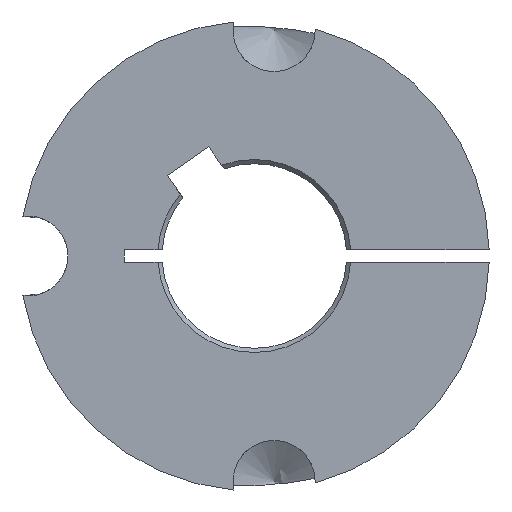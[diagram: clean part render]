
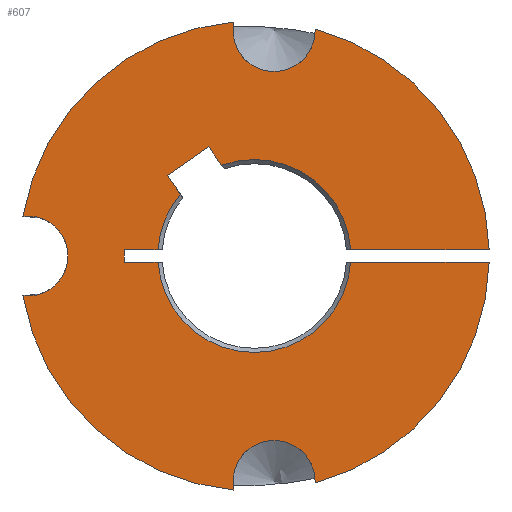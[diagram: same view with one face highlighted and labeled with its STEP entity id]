
A CAD part, left-side view. The second image highlights one B-rep face of the part: STEP entity #607.
In plain terms, the highlighted planar face has unit normal (-1, 0, 0).
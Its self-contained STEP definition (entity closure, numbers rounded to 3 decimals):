
#15=PLANE('',#649);
#41=LINE('',#985,#79);
#42=LINE('',#989,#80);
#43=LINE('',#991,#81);
#44=LINE('',#993,#82);
#45=LINE('',#997,#83);
#46=LINE('',#1001,#84);
#47=LINE('',#1005,#85);
#48=LINE('',#1009,#86);
#79=VECTOR('',#743,16.514);
#80=VECTOR('',#746,4.024);
#81=VECTOR('',#747,1.5);
#82=VECTOR('',#748,4.024);
#83=VECTOR('',#751,2.688);
#84=VECTOR('',#754,5.98);
#85=VECTOR('',#757,2.688);
#86=VECTOR('',#760,16.514);
#131=FACE_OUTER_BOUND('',#165,.T.);
#165=EDGE_LOOP('',(#417,#418,#419,#420,#421,#422,#423,#424,#425,#426,#427,
#428,#429,#430,#431,#432,#433,#434,#435,#436));
#197=CIRCLE('',#644,4.9);
#201=CIRCLE('',#650,4.9);
#202=CIRCLE('',#651,28.);
#203=CIRCLE('',#652,4.763);
#204=CIRCLE('',#653,28.);
#205=CIRCLE('',#654,28.);
#206=CIRCLE('',#655,11.5);
#207=CIRCLE('',#656,11.5);
#208=CIRCLE('',#657,0.01);
#209=CIRCLE('',#658,0.01);
#210=CIRCLE('',#659,11.5);
#211=CIRCLE('',#660,28.);
#244=VERTEX_POINT('',#942);
#245=VERTEX_POINT('',#944);
#251=VERTEX_POINT('',#974);
#252=VERTEX_POINT('',#975);
#253=VERTEX_POINT('',#977);
#254=VERTEX_POINT('',#979);
#255=VERTEX_POINT('',#982);
#256=VERTEX_POINT('',#984);
#257=VERTEX_POINT('',#986);
#258=VERTEX_POINT('',#988);
#259=VERTEX_POINT('',#990);
#260=VERTEX_POINT('',#992);
#261=VERTEX_POINT('',#994);
#262=VERTEX_POINT('',#996);
#263=VERTEX_POINT('',#998);
#264=VERTEX_POINT('',#1000);
#265=VERTEX_POINT('',#1002);
#266=VERTEX_POINT('',#1004);
#267=VERTEX_POINT('',#1006);
#268=VERTEX_POINT('',#1008);
#309=EDGE_CURVE('',#245,#244,#197,.T.);
#317=EDGE_CURVE('',#251,#252,#201,.T.);
#318=EDGE_CURVE('',#252,#253,#202,.T.);
#319=EDGE_CURVE('',#253,#254,#203,.T.);
#320=EDGE_CURVE('',#254,#245,#204,.T.);
#321=EDGE_CURVE('',#244,#255,#205,.T.);
#322=EDGE_CURVE('',#255,#256,#41,.T.);
#323=EDGE_CURVE('',#257,#256,#206,.T.);
#324=EDGE_CURVE('',#257,#258,#42,.T.);
#325=EDGE_CURVE('',#258,#259,#43,.T.);
#326=EDGE_CURVE('',#259,#260,#44,.T.);
#327=EDGE_CURVE('',#261,#260,#207,.T.);
#328=EDGE_CURVE('',#261,#262,#45,.T.);
#329=EDGE_CURVE('',#262,#263,#208,.T.);
#330=EDGE_CURVE('',#263,#264,#46,.T.);
#331=EDGE_CURVE('',#264,#265,#209,.T.);
#332=EDGE_CURVE('',#265,#266,#47,.T.);
#333=EDGE_CURVE('',#267,#266,#210,.T.);
#334=EDGE_CURVE('',#267,#268,#48,.T.);
#335=EDGE_CURVE('',#268,#251,#211,.T.);
#417=ORIENTED_EDGE('',*,*,#317,.T.);
#418=ORIENTED_EDGE('',*,*,#318,.T.);
#419=ORIENTED_EDGE('',*,*,#319,.T.);
#420=ORIENTED_EDGE('',*,*,#320,.T.);
#421=ORIENTED_EDGE('',*,*,#309,.T.);
#422=ORIENTED_EDGE('',*,*,#321,.T.);
#423=ORIENTED_EDGE('',*,*,#322,.T.);
#424=ORIENTED_EDGE('',*,*,#323,.F.);
#425=ORIENTED_EDGE('',*,*,#324,.T.);
#426=ORIENTED_EDGE('',*,*,#325,.T.);
#427=ORIENTED_EDGE('',*,*,#326,.T.);
#428=ORIENTED_EDGE('',*,*,#327,.F.);
#429=ORIENTED_EDGE('',*,*,#328,.T.);
#430=ORIENTED_EDGE('',*,*,#329,.T.);
#431=ORIENTED_EDGE('',*,*,#330,.T.);
#432=ORIENTED_EDGE('',*,*,#331,.T.);
#433=ORIENTED_EDGE('',*,*,#332,.T.);
#434=ORIENTED_EDGE('',*,*,#333,.F.);
#435=ORIENTED_EDGE('',*,*,#334,.T.);
#436=ORIENTED_EDGE('',*,*,#335,.T.);
#607=ADVANCED_FACE('',(#131),#15,.T.);
#644=AXIS2_PLACEMENT_3D('',#945,#720,#721);
#649=AXIS2_PLACEMENT_3D('',#973,#731,#732);
#650=AXIS2_PLACEMENT_3D('',#976,#733,#734);
#651=AXIS2_PLACEMENT_3D('',#978,#735,#736);
#652=AXIS2_PLACEMENT_3D('',#980,#737,#738);
#653=AXIS2_PLACEMENT_3D('',#981,#739,#740);
#654=AXIS2_PLACEMENT_3D('',#983,#741,#742);
#655=AXIS2_PLACEMENT_3D('',#987,#744,#745);
#656=AXIS2_PLACEMENT_3D('',#995,#749,#750);
#657=AXIS2_PLACEMENT_3D('',#999,#752,#753);
#658=AXIS2_PLACEMENT_3D('',#1003,#755,#756);
#659=AXIS2_PLACEMENT_3D('',#1007,#758,#759);
#660=AXIS2_PLACEMENT_3D('',#1010,#761,#762);
#720=DIRECTION('center_axis',(1.,0.,0.));
#721=DIRECTION('ref_axis',(0.,0.,1.));
#731=DIRECTION('center_axis',(-1.,0.,0.));
#732=DIRECTION('ref_axis',(0.,0.,1.));
#733=DIRECTION('center_axis',(1.,0.,0.));
#734=DIRECTION('ref_axis',(0.,-0.951,-0.311));
#735=DIRECTION('center_axis',(-1.,0.,0.));
#736=DIRECTION('ref_axis',(0.,0.,1.));
#737=DIRECTION('center_axis',(1.,0.,0.));
#738=DIRECTION('ref_axis',(0.,-0.238,0.971));
#739=DIRECTION('center_axis',(-1.,0.,0.));
#740=DIRECTION('ref_axis',(0.,0.,1.));
#741=DIRECTION('center_axis',(-1.,0.,0.));
#742=DIRECTION('ref_axis',(0.,0.,1.));
#743=DIRECTION('',(0.,1.,0.));
#744=DIRECTION('center_axis',(-1.,0.,0.));
#745=DIRECTION('ref_axis',(0.,0.,1.));
#746=DIRECTION('',(0.,1.,0.));
#747=DIRECTION('',(0.,0.,1.));
#748=DIRECTION('',(0.,-1.,0.));
#749=DIRECTION('center_axis',(-1.,0.,0.));
#750=DIRECTION('ref_axis',(0.,0.,1.));
#751=DIRECTION('',(0.,0.574,0.819));
#752=DIRECTION('center_axis',(1.,0.,0.));
#753=DIRECTION('ref_axis',(0.,-0.574,-0.819));
#754=DIRECTION('',(0.,-0.819,0.574));
#755=DIRECTION('center_axis',(1.,0.,0.));
#756=DIRECTION('ref_axis',(0.,0.819,-0.574));
#757=DIRECTION('',(0.,-0.574,-0.819));
#758=DIRECTION('center_axis',(-1.,0.,0.));
#759=DIRECTION('ref_axis',(0.,0.,1.));
#760=DIRECTION('',(0.,-1.,0.));
#761=DIRECTION('center_axis',(-1.,0.,0.));
#762=DIRECTION('ref_axis',(0.,0.,1.));
#942=CARTESIAN_POINT('',(-9.686,9.101,-27.045));
#944=CARTESIAN_POINT('',(-9.686,18.793,-27.893));
#945=CARTESIAN_POINT('Origin',(-9.686,13.998,-26.885));
#973=CARTESIAN_POINT('Origin',(-9.686,4.85,0.));
#974=CARTESIAN_POINT('',(-9.686,9.101,27.045));
#975=CARTESIAN_POINT('',(-9.686,18.793,27.893));
#976=CARTESIAN_POINT('Origin',(-9.686,13.998,26.885));
#977=CARTESIAN_POINT('',(-9.686,43.949,4.723));
#978=CARTESIAN_POINT('Origin',(-9.686,16.35,0.));
#979=CARTESIAN_POINT('',(-9.686,43.949,-4.723));
#980=CARTESIAN_POINT('Origin',(-9.686,43.338,0.));
#981=CARTESIAN_POINT('Origin',(-9.686,16.35,0.));
#982=CARTESIAN_POINT('',(-9.686,-11.64,-0.75));
#983=CARTESIAN_POINT('Origin',(-9.686,16.35,0.));
#984=CARTESIAN_POINT('',(-9.686,4.875,-0.75));
#985=CARTESIAN_POINT('',(-9.686,5.113,-0.75));
#986=CARTESIAN_POINT('',(-9.686,27.826,-0.75));
#987=CARTESIAN_POINT('Origin',(-9.686,16.35,0.));
#988=CARTESIAN_POINT('',(-9.686,31.85,-0.75));
#989=CARTESIAN_POINT('',(-9.686,16.338,-0.75));
#990=CARTESIAN_POINT('',(-9.686,31.85,0.75));
#991=CARTESIAN_POINT('',(-9.686,31.85,0.375));
#992=CARTESIAN_POINT('',(-9.686,27.826,0.75));
#993=CARTESIAN_POINT('',(-9.686,16.088,0.75));
#994=CARTESIAN_POINT('',(-9.686,25.176,7.373));
#995=CARTESIAN_POINT('Origin',(-9.686,16.35,0.));
#996=CARTESIAN_POINT('',(-9.686,26.718,9.575));
#997=CARTESIAN_POINT('',(-9.686,20.1,0.125));
#998=CARTESIAN_POINT('',(-9.686,26.715,9.589));
#999=CARTESIAN_POINT('Origin',(-9.686,26.709,9.581));
#1000=CARTESIAN_POINT('',(-9.686,21.817,13.019));
#1001=CARTESIAN_POINT('',(-9.686,19.183,14.863));
#1002=CARTESIAN_POINT('',(-9.686,21.803,13.017));
#1003=CARTESIAN_POINT('Origin',(-9.686,21.811,13.011));
#1004=CARTESIAN_POINT('',(-9.686,20.261,10.815));
#1005=CARTESIAN_POINT('',(-9.686,15.036,3.354));
#1006=CARTESIAN_POINT('',(-9.686,4.875,0.75));
#1007=CARTESIAN_POINT('Origin',(-9.686,16.35,0.));
#1008=CARTESIAN_POINT('',(-9.686,-11.64,0.75));
#1009=CARTESIAN_POINT('',(-9.686,4.863,0.75));
#1010=CARTESIAN_POINT('Origin',(-9.686,16.35,0.));
